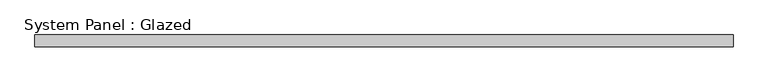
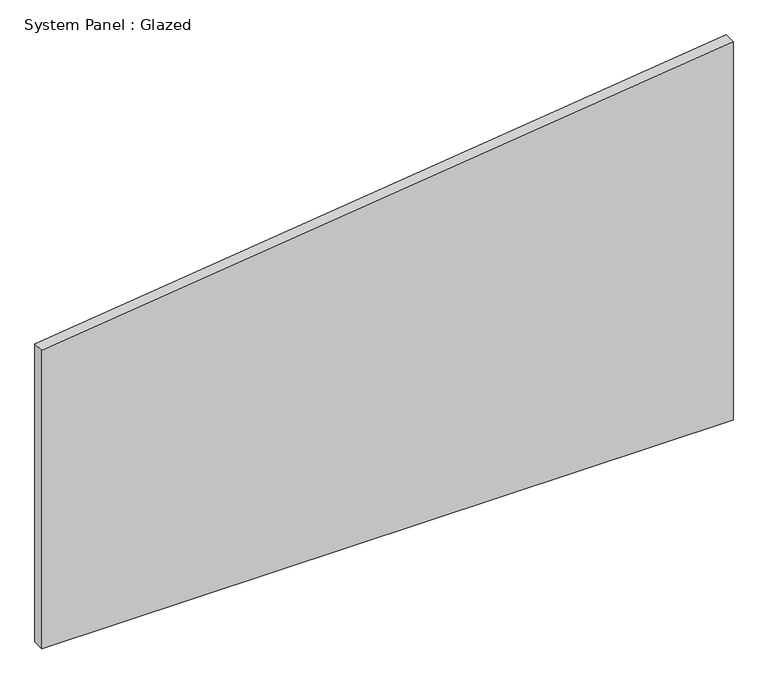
"""IFC4 building model written with IfcOpenShell, lengths in millimetres: plate geometry, System Panel : Glazed."""

from ifc_helpers import new_model, si_unit, frame, origin, place, context, project, spatial, polyline, outline, extrude, source, transform, mapped, element, save


def system_panel_glazed_0c31e6eb(model_context):
    return source(origin(), model_context, "Body", "SweptSolid", [
        extrude(outline(polyline([(0.0, -726.9631579), (0.0, 726.9631579), (841.6870484, 726.9631579), (663.1673441, -726.9631579), (0.0, -726.9631579)])), frame((0.0, 24.5, 0.0), z_axis=(0.0, 1.0, 0.0), x_axis=(0.0, 0.0, 1.0)), (0.0, 0.0, 1.0), 25.0),
    ])


if __name__ == "__main__":
    model = new_model("IFC4")
    model_context = context("Model", 3, world=origin())
    ifc_project = project(units=[si_unit("LENGTHUNIT", "METRE", prefix="MILLI")], contexts=[model_context])
    site = spatial("IfcSite", under=ifc_project)
    building = spatial("IfcBuilding", under=site)
    placement = place(None, origin())
    system_panel_glazed_shape = system_panel_glazed_0c31e6eb(model_context)
    element("IfcPlate", 1, ObjectType="System Panel : Glazed", at=placement, inside=building, context=model_context, shape_type="MappedRepresentation", body=[
        mapped(system_panel_glazed_shape, transform((0.0, 0.0, 0.0), x_axis=(1.0, 0.0, 0.0), y_axis=(0.0, 1.0, 0.0), z_axis=(0.0, 0.0, 1.0))),
    ])
    save(model, "model.ifc")
